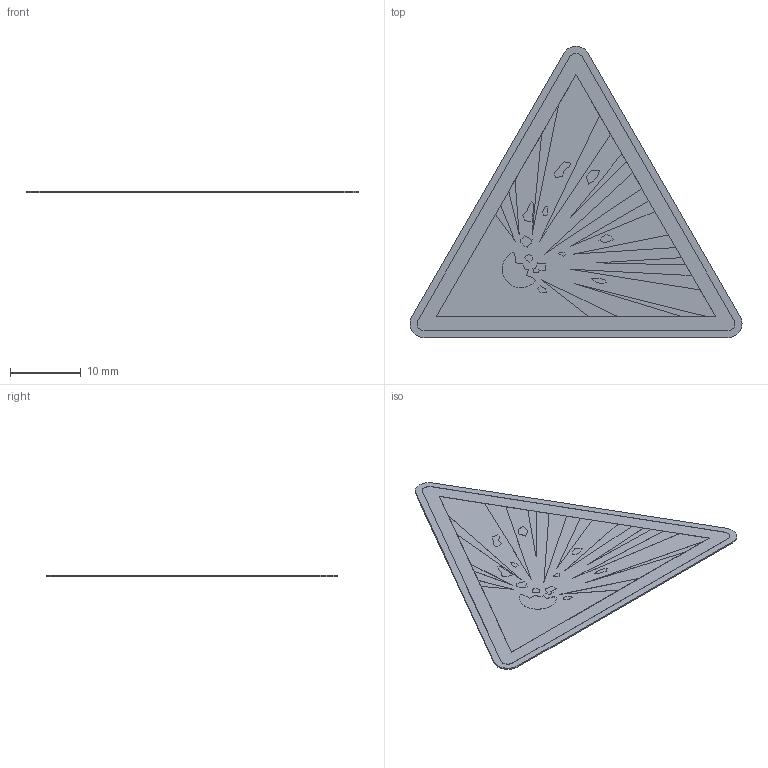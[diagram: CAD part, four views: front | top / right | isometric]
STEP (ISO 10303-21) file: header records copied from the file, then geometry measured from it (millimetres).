
FILE_DESCRIPTION (( 'STEP AP214' ), '1' );
FILE_NAME ('W002_Warnung vor explosionsgefährlichen Stoffen.STEP', '2022-02-22T08:07:12', ( '' ), ( '' ), 'SwSTEP 2.0', 'SolidWorks 2021', '' );
FILE_SCHEMA (( 'AUTOMOTIVE_DESIGN' ));
Length unit declared in the file: millimetre
Products named in the file (1): W002_Warnung vor explosionsgefährlichen Stoffen
Bounding box: 47.07 x 41.3 x 0.22 mm (x, y, z)
Volume: 221.7 mm3; surface area: 2185.7 mm2
Topology: 1 solids, 1 shells, 150 faces, 402 edges, 268 vertices
Faces by surface type: plane 140, cylinder 10
Entity records: 6180 total; most frequent: CARTESIAN_POINT 821, ORIENTED_EDGE 804, DIRECTION 724, EDGE_CURVE 402, VECTOR 382, LINE 382, VERTEX_POINT 268, AXIS2_PLACEMENT_3D 171
